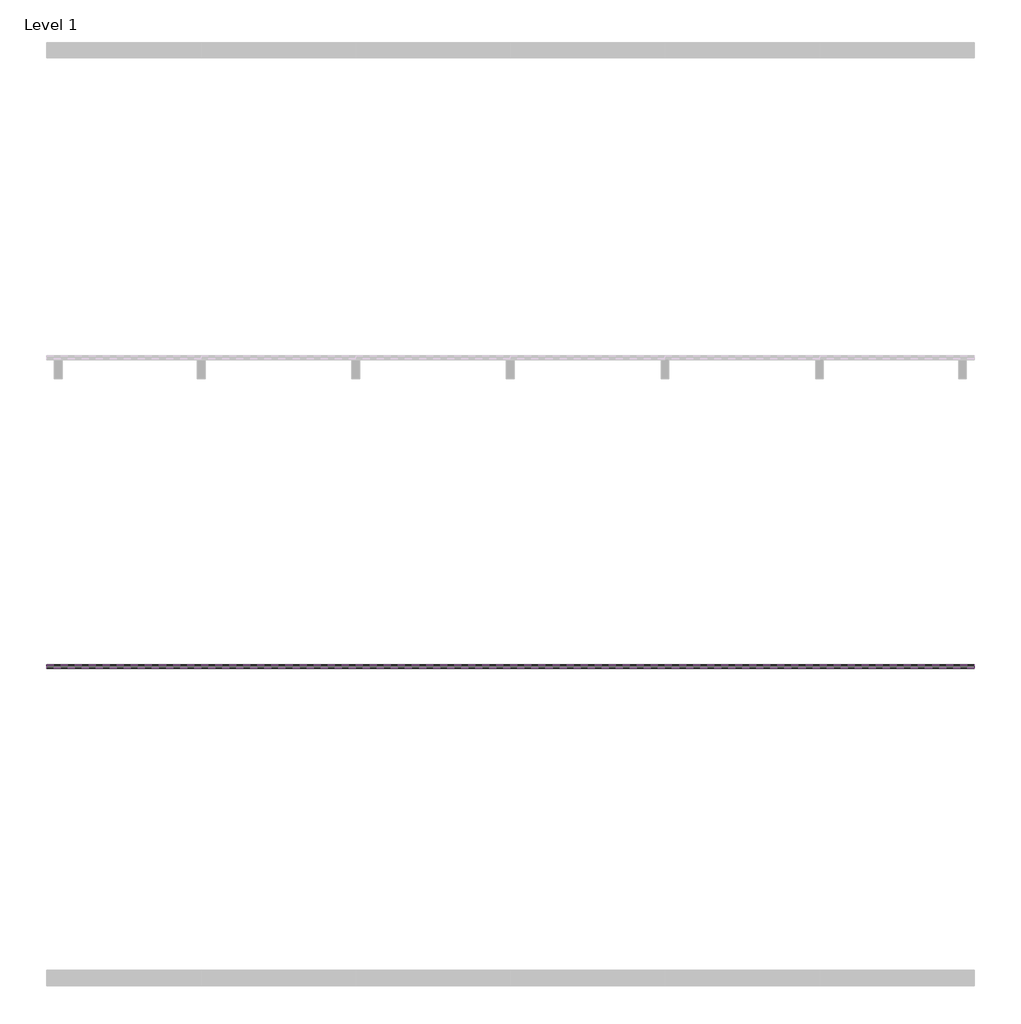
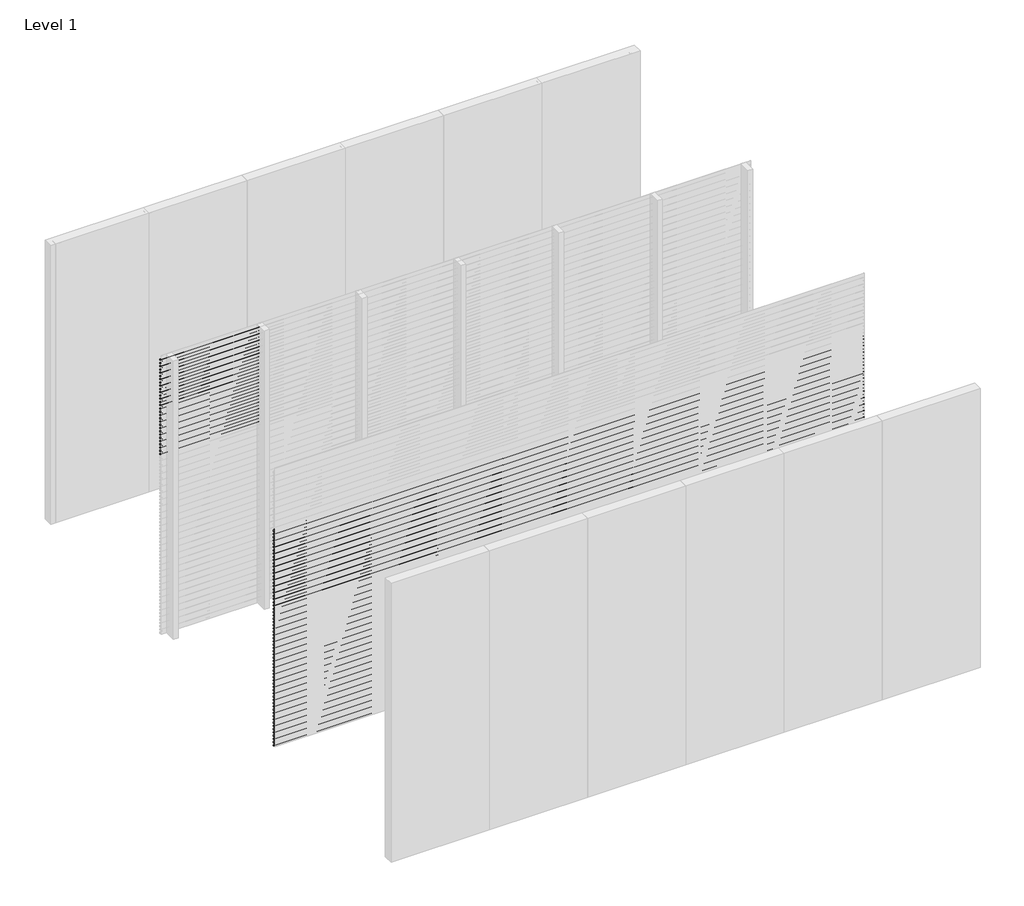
# One storey, part 2 of 25: 97 proxies.
"""IFC4 building model written with IfcOpenShell, lengths in millimetres."""

from ifc_helpers import new_model, si_unit, frame, origin, place, context, project, spatial, polyline, outline, extrude, element, save

model = new_model("IFC4")

# Units and contexts
model_context = context("Model", 3, world=origin())
ifc_project = project(units=[si_unit("LENGTHUNIT", "METRE", prefix="MILLI")], contexts=[model_context])

# Site, building, storey
site = spatial("IfcSite", under=ifc_project)
building = spatial("IfcBuilding", under=site)
storey = spatial("IfcBuildingStorey", under=building, Name="Level 1", Elevation=0.0)

# Proxies
placement = place(None, origin())
element("IfcBuildingElementProxy", 1, Name="Wall Sweeps", at=placement, inside=storey, context=model_context, shape_type="SweptSolid", body=[
    extrude(outline(polyline([(-17995.0, 2975.0), (-17995.0, 2963.942893), (-17976.0, 2948.0), (-17976.0, 2935.0), (-17997.0, 2952.6210923), (-17997.0, 2975.0), (-17995.0, 2975.0)])), frame((0.0, 0.0, 0.0), z_axis=(1.0, 0.0, 0.0), x_axis=(0.0, 1.0, 0.0)), (0.0, 0.0, 1.0), 1000.0000002),
])
element("IfcBuildingElementProxy", 2, Name="Wall Sweeps", at=placement, inside=storey, context=model_context, shape_type="SweptSolid", body=[
    extrude(outline(polyline([(-17995.0, 2940.0), (-17995.0, 2928.942893), (-17976.0, 2913.0), (-17976.0, 2900.0), (-17997.0, 2917.6210923), (-17997.0, 2940.0), (-17995.0, 2940.0)])), frame((0.0, 0.0, 0.0), z_axis=(1.0, 0.0, 0.0), x_axis=(0.0, 1.0, 0.0)), (0.0, 0.0, 1.0), 1000.0000002),
])
element("IfcBuildingElementProxy", 3, Name="Wall Sweeps", at=placement, inside=storey, context=model_context, shape_type="SweptSolid", body=[
    extrude(outline(polyline([(-17995.0, 2905.0), (-17995.0, 2893.942893), (-17976.0, 2878.0), (-17976.0, 2865.0), (-17997.0, 2882.6210923), (-17997.0, 2905.0), (-17995.0, 2905.0)])), frame((0.0, 0.0, 0.0), z_axis=(1.0, 0.0, 0.0), x_axis=(0.0, 1.0, 0.0)), (0.0, 0.0, 1.0), 1000.0000002),
])
element("IfcBuildingElementProxy", 4, Name="Wall Sweeps", at=placement, inside=storey, context=model_context, shape_type="SweptSolid", body=[
    extrude(outline(polyline([(-17995.0, 2870.0), (-17995.0, 2858.942893), (-17976.0, 2843.0), (-17976.0, 2830.0), (-17997.0, 2847.6210923), (-17997.0, 2870.0), (-17995.0, 2870.0)])), frame((0.0, 0.0, 0.0), z_axis=(1.0, 0.0, 0.0), x_axis=(0.0, 1.0, 0.0)), (0.0, 0.0, 1.0), 1000.0000002),
])
element("IfcBuildingElementProxy", 5, Name="Wall Sweeps", at=placement, inside=storey, context=model_context, shape_type="SweptSolid", body=[
    extrude(outline(polyline([(-17995.0, 2835.0), (-17995.0, 2823.942893), (-17976.0, 2808.0), (-17976.0, 2795.0), (-17997.0, 2812.6210923), (-17997.0, 2835.0), (-17995.0, 2835.0)])), frame((0.0, 0.0, 0.0), z_axis=(1.0, 0.0, 0.0), x_axis=(0.0, 1.0, 0.0)), (0.0, 0.0, 1.0), 1000.0000002),
])
element("IfcBuildingElementProxy", 6, Name="Wall Sweeps", at=placement, inside=storey, context=model_context, shape_type="SweptSolid", body=[
    extrude(outline(polyline([(-17995.0, 2800.0), (-17995.0, 2788.942893), (-17976.0, 2773.0), (-17976.0, 2760.0), (-17997.0, 2777.6210923), (-17997.0, 2800.0), (-17995.0, 2800.0)])), frame((0.0, 0.0, 0.0), z_axis=(1.0, 0.0, 0.0), x_axis=(0.0, 1.0, 0.0)), (0.0, 0.0, 1.0), 1000.0000002),
])
element("IfcBuildingElementProxy", 7, Name="Wall Sweeps", at=placement, inside=storey, context=model_context, shape_type="SweptSolid", body=[
    extrude(outline(polyline([(-17995.0, 2765.0), (-17995.0, 2753.942893), (-17976.0, 2738.0), (-17976.0, 2725.0), (-17997.0, 2742.6210923), (-17997.0, 2765.0), (-17995.0, 2765.0)])), frame((0.0, 0.0, 0.0), z_axis=(1.0, 0.0, 0.0), x_axis=(0.0, 1.0, 0.0)), (0.0, 0.0, 1.0), 1000.0000002),
])
element("IfcBuildingElementProxy", 8, Name="Wall Sweeps", at=placement, inside=storey, context=model_context, shape_type="SweptSolid", body=[
    extrude(outline(polyline([(-17995.0, 2730.0), (-17995.0, 2718.942893), (-17976.0, 2703.0), (-17976.0, 2690.0), (-17997.0, 2707.6210923), (-17997.0, 2730.0), (-17995.0, 2730.0)])), frame((0.0, 0.0, 0.0), z_axis=(1.0, 0.0, 0.0), x_axis=(0.0, 1.0, 0.0)), (0.0, 0.0, 1.0), 1000.0000002),
])
element("IfcBuildingElementProxy", 9, Name="Wall Sweeps", at=placement, inside=storey, context=model_context, shape_type="SweptSolid", body=[
    extrude(outline(polyline([(-17995.0, 2695.0), (-17995.0, 2683.942893), (-17976.0, 2668.0), (-17976.0, 2655.0), (-17997.0, 2672.6210923), (-17997.0, 2695.0), (-17995.0, 2695.0)])), frame((0.0, 0.0, 0.0), z_axis=(1.0, 0.0, 0.0), x_axis=(0.0, 1.0, 0.0)), (0.0, 0.0, 1.0), 1000.0000002),
])
element("IfcBuildingElementProxy", 10, Name="Wall Sweeps", at=placement, inside=storey, context=model_context, shape_type="SweptSolid", body=[
    extrude(outline(polyline([(-17995.0, 2660.0), (-17995.0, 2648.942893), (-17976.0, 2633.0), (-17976.0, 2620.0), (-17997.0, 2637.6210923), (-17997.0, 2660.0), (-17995.0, 2660.0)])), frame((0.0, 0.0, 0.0), z_axis=(1.0, 0.0, 0.0), x_axis=(0.0, 1.0, 0.0)), (0.0, 0.0, 1.0), 1000.0000002),
])
element("IfcBuildingElementProxy", 11, Name="Wall Sweeps", at=placement, inside=storey, context=model_context, shape_type="SweptSolid", body=[
    extrude(outline(polyline([(-17995.0, 2625.0), (-17995.0, 2613.942893), (-17976.0, 2598.0), (-17976.0, 2585.0), (-17997.0, 2602.6210923), (-17997.0, 2625.0), (-17995.0, 2625.0)])), frame((0.0, 0.0, 0.0), z_axis=(1.0, 0.0, 0.0), x_axis=(0.0, 1.0, 0.0)), (0.0, 0.0, 1.0), 1000.0000002),
])
element("IfcBuildingElementProxy", 12, Name="Wall Sweeps", at=placement, inside=storey, context=model_context, shape_type="SweptSolid", body=[
    extrude(outline(polyline([(-17995.0, 2590.0), (-17995.0, 2578.942893), (-17976.0, 2563.0), (-17976.0, 2550.0), (-17997.0, 2567.6210923), (-17997.0, 2590.0), (-17995.0, 2590.0)])), frame((0.0, 0.0, 0.0), z_axis=(1.0, 0.0, 0.0), x_axis=(0.0, 1.0, 0.0)), (0.0, 0.0, 1.0), 1000.0000002),
])
element("IfcBuildingElementProxy", 13, Name="Wall Sweeps", at=placement, inside=storey, context=model_context, shape_type="SweptSolid", body=[
    extrude(outline(polyline([(-17995.0, 2555.0), (-17995.0, 2543.942893), (-17976.0, 2528.0), (-17976.0, 2515.0), (-17997.0, 2532.6210923), (-17997.0, 2555.0), (-17995.0, 2555.0)])), frame((0.0, 0.0, 0.0), z_axis=(1.0, 0.0, 0.0), x_axis=(0.0, 1.0, 0.0)), (0.0, 0.0, 1.0), 1000.0000002),
])
element("IfcBuildingElementProxy", 14, Name="Wall Sweeps", at=placement, inside=storey, context=model_context, shape_type="SweptSolid", body=[
    extrude(outline(polyline([(-17995.0, 2520.0), (-17995.0, 2508.942893), (-17976.0, 2493.0), (-17976.0, 2480.0), (-17997.0, 2497.6210923), (-17997.0, 2520.0), (-17995.0, 2520.0)])), frame((0.0, 0.0, 0.0), z_axis=(1.0, 0.0, 0.0), x_axis=(0.0, 1.0, 0.0)), (0.0, 0.0, 1.0), 1000.0000002),
])
element("IfcBuildingElementProxy", 15, Name="Wall Sweeps", at=placement, inside=storey, context=model_context, shape_type="SweptSolid", body=[
    extrude(outline(polyline([(-17995.0, 2485.0), (-17995.0, 2473.942893), (-17976.0, 2458.0), (-17976.0, 2445.0), (-17997.0, 2462.6210923), (-17997.0, 2485.0), (-17995.0, 2485.0)])), frame((0.0, 0.0, 0.0), z_axis=(1.0, 0.0, 0.0), x_axis=(0.0, 1.0, 0.0)), (0.0, 0.0, 1.0), 1000.0000002),
])
element("IfcBuildingElementProxy", 16, Name="Wall Sweeps", at=placement, inside=storey, context=model_context, shape_type="SweptSolid", body=[
    extrude(outline(polyline([(-17995.0, 2450.0), (-17995.0, 2438.942893), (-17976.0, 2423.0), (-17976.0, 2410.0), (-17997.0, 2427.6210923), (-17997.0, 2450.0), (-17995.0, 2450.0)])), frame((0.0, 0.0, 0.0), z_axis=(1.0, 0.0, 0.0), x_axis=(0.0, 1.0, 0.0)), (0.0, 0.0, 1.0), 1000.0000002),
])
element("IfcBuildingElementProxy", 17, Name="Wall Sweeps", at=placement, inside=storey, context=model_context, shape_type="SweptSolid", body=[
    extrude(outline(polyline([(-17995.0, 2415.0), (-17995.0, 2403.942893), (-17976.0, 2388.0), (-17976.0, 2375.0), (-17997.0, 2392.6210923), (-17997.0, 2415.0), (-17995.0, 2415.0)])), frame((0.0, 0.0, 0.0), z_axis=(1.0, 0.0, 0.0), x_axis=(0.0, 1.0, 0.0)), (0.0, 0.0, 1.0), 1000.0000002),
])
element("IfcBuildingElementProxy", 18, Name="Wall Sweeps", at=placement, inside=storey, context=model_context, shape_type="SweptSolid", body=[
    extrude(outline(polyline([(-17995.0, 2380.0), (-17995.0, 2368.942893), (-17976.0, 2353.0), (-17976.0, 2340.0), (-17997.0, 2357.6210923), (-17997.0, 2380.0), (-17995.0, 2380.0)])), frame((0.0, 0.0, 0.0), z_axis=(1.0, 0.0, 0.0), x_axis=(0.0, 1.0, 0.0)), (0.0, 0.0, 1.0), 1000.0000002),
])
element("IfcBuildingElementProxy", 19, Name="Wall Sweeps", at=placement, inside=storey, context=model_context, shape_type="SweptSolid", body=[
    extrude(outline(polyline([(-17995.0, 2345.0), (-17995.0, 2333.942893), (-17976.0, 2318.0), (-17976.0, 2305.0), (-17997.0, 2322.6210923), (-17997.0, 2345.0), (-17995.0, 2345.0)])), frame((0.0, 0.0, 0.0), z_axis=(1.0, 0.0, 0.0), x_axis=(0.0, 1.0, 0.0)), (0.0, 0.0, 1.0), 1000.0000002),
])
element("IfcBuildingElementProxy", 20, Name="Wall Sweeps", at=placement, inside=storey, context=model_context, shape_type="SweptSolid", body=[
    extrude(outline(polyline([(-17995.0, 2310.0), (-17995.0, 2298.942893), (-17976.0, 2283.0), (-17976.0, 2270.0), (-17997.0, 2287.6210923), (-17997.0, 2310.0), (-17995.0, 2310.0)])), frame((0.0, 0.0, 0.0), z_axis=(1.0, 0.0, 0.0), x_axis=(0.0, 1.0, 0.0)), (0.0, 0.0, 1.0), 1000.0000002),
])
element("IfcBuildingElementProxy", 21, Name="Wall Sweeps", at=placement, inside=storey, context=model_context, shape_type="SweptSolid", body=[
    extrude(outline(polyline([(-17995.0, 2275.0), (-17995.0, 2263.942893), (-17976.0, 2248.0), (-17976.0, 2235.0), (-17997.0, 2252.6210923), (-17997.0, 2275.0), (-17995.0, 2275.0)])), frame((0.0, 0.0, 0.0), z_axis=(1.0, 0.0, 0.0), x_axis=(0.0, 1.0, 0.0)), (0.0, 0.0, 1.0), 1000.0000002),
])
element("IfcBuildingElementProxy", 22, Name="Wall Sweeps", at=placement, inside=storey, context=model_context, shape_type="SweptSolid", body=[
    extrude(outline(polyline([(-17995.0, 2240.0), (-17995.0, 2228.942893), (-17976.0, 2213.0), (-17976.0, 2200.0), (-17997.0, 2217.6210923), (-17997.0, 2240.0), (-17995.0, 2240.0)])), frame((0.0, 0.0, 0.0), z_axis=(1.0, 0.0, 0.0), x_axis=(0.0, 1.0, 0.0)), (0.0, 0.0, 1.0), 1000.0000002),
])
element("IfcBuildingElementProxy", 23, Name="Wall Sweeps", at=placement, inside=storey, context=model_context, shape_type="SweptSolid", body=[
    extrude(outline(polyline([(-17995.0, 2205.0), (-17995.0, 2193.942893), (-17976.0, 2178.0), (-17976.0, 2165.0), (-17997.0, 2182.6210923), (-17997.0, 2205.0), (-17995.0, 2205.0)])), frame((0.0, 0.0, 0.0), z_axis=(1.0, 0.0, 0.0), x_axis=(0.0, 1.0, 0.0)), (0.0, 0.0, 1.0), 1000.0000002),
])
element("IfcBuildingElementProxy", 24, Name="Wall Sweeps", at=placement, inside=storey, context=model_context, shape_type="SweptSolid", body=[
    extrude(outline(polyline([(-17995.0, 2170.0), (-17995.0, 2158.942893), (-17976.0, 2143.0), (-17976.0, 2130.0), (-17997.0, 2147.6210923), (-17997.0, 2170.0), (-17995.0, 2170.0)])), frame((0.0, 0.0, 0.0), z_axis=(1.0, 0.0, 0.0), x_axis=(0.0, 1.0, 0.0)), (0.0, 0.0, 1.0), 1000.0000002),
])
element("IfcBuildingElementProxy", 25, Name="Wall Sweeps", at=placement, inside=storey, context=model_context, shape_type="SweptSolid", body=[
    extrude(outline(polyline([(-17995.0, 2135.0), (-17995.0, 2123.942893), (-17976.0, 2108.0), (-17976.0, 2095.0), (-17997.0, 2112.6210923), (-17997.0, 2135.0), (-17995.0, 2135.0)])), frame((0.0, 0.0, 0.0), z_axis=(1.0, 0.0, 0.0), x_axis=(0.0, 1.0, 0.0)), (0.0, 0.0, 1.0), 1000.0000002),
])
element("IfcBuildingElementProxy", 26, Name="Wall Sweeps", at=placement, inside=storey, context=model_context, shape_type="SweptSolid", body=[
    extrude(outline(polyline([(-17995.0, 2100.0), (-17995.0, 2088.942893), (-17976.0, 2073.0), (-17976.0, 2060.0), (-17997.0, 2077.6210923), (-17997.0, 2100.0), (-17995.0, 2100.0)])), frame((0.0, 0.0, 0.0), z_axis=(1.0, 0.0, 0.0), x_axis=(0.0, 1.0, 0.0)), (0.0, 0.0, 1.0), 1000.0000002),
])
element("IfcBuildingElementProxy", 27, Name="Wall Sweeps", at=placement, inside=storey, context=model_context, shape_type="SweptSolid", body=[
    extrude(outline(polyline([(-17995.0, 2065.0), (-17995.0, 2053.942893), (-17976.0, 2038.0), (-17976.0, 2025.0), (-17997.0, 2042.6210923), (-17997.0, 2065.0), (-17995.0, 2065.0)])), frame((0.0, 0.0, 0.0), z_axis=(1.0, 0.0, 0.0), x_axis=(0.0, 1.0, 0.0)), (0.0, 0.0, 1.0), 1000.0000002),
])
element("IfcBuildingElementProxy", 28, Name="Wall Sweeps", at=placement, inside=storey, context=model_context, shape_type="SweptSolid", body=[
    extrude(outline(polyline([(-17995.0, 2030.0), (-17995.0, 2018.942893), (-17976.0, 2003.0), (-17976.0, 1990.0), (-17997.0, 2007.6210923), (-17997.0, 2030.0), (-17995.0, 2030.0)])), frame((0.0, 0.0, 0.0), z_axis=(1.0, 0.0, 0.0), x_axis=(0.0, 1.0, 0.0)), (0.0, 0.0, 1.0), 1000.0000002),
])
element("IfcBuildingElementProxy", 29, Name="Wall Sweeps", at=placement, inside=storey, context=model_context, shape_type="SweptSolid", body=[
    extrude(outline(polyline([(-17995.0, 1995.0), (-17995.0, 1983.942893), (-17976.0, 1968.0), (-17976.0, 1955.0), (-17997.0, 1972.6210923), (-17997.0, 1995.0), (-17995.0, 1995.0)])), frame((0.0, 0.0, 0.0), z_axis=(1.0, 0.0, 0.0), x_axis=(0.0, 1.0, 0.0)), (0.0, 0.0, 1.0), 1000.0000002),
])
element("IfcBuildingElementProxy", 30, Name="Wall Sweeps", at=placement, inside=storey, context=model_context, shape_type="SweptSolid", body=[
    extrude(outline(polyline([(-17995.0, 1960.0), (-17995.0, 1948.942893), (-17976.0, 1933.0), (-17976.0, 1920.0), (-17997.0, 1937.6210923), (-17997.0, 1960.0), (-17995.0, 1960.0)])), frame((0.0, 0.0, 0.0), z_axis=(1.0, 0.0, 0.0), x_axis=(0.0, 1.0, 0.0)), (0.0, 0.0, 1.0), 1000.0000002),
])
element("IfcBuildingElementProxy", 31, Name="Wall Sweeps", at=placement, inside=storey, context=model_context, shape_type="SweptSolid", body=[
    extrude(outline(polyline([(-19995.0, 2345.0), (-19995.0, 2333.942893), (-19976.0, 2318.0), (-19976.0, 2305.0), (-19997.0, 2322.6210923), (-19997.0, 2345.0), (-19995.0, 2345.0)])), frame((0.0, 0.0, 0.0), z_axis=(1.0, 0.0, 0.0), x_axis=(0.0, 1.0, 0.0)), (0.0, 0.0, 1.0), 6000.0),
])
element("IfcBuildingElementProxy", 32, Name="Wall Sweeps", at=placement, inside=storey, context=model_context, shape_type="SweptSolid", body=[
    extrude(outline(polyline([(-19995.0, 2310.0), (-19995.0, 2298.942893), (-19976.0, 2283.0), (-19976.0, 2270.0), (-19997.0, 2287.6210923), (-19997.0, 2310.0), (-19995.0, 2310.0)])), frame((0.0, 0.0, 0.0), z_axis=(1.0, 0.0, 0.0), x_axis=(0.0, 1.0, 0.0)), (0.0, 0.0, 1.0), 6000.0),
])
element("IfcBuildingElementProxy", 33, Name="Wall Sweeps", at=placement, inside=storey, context=model_context, shape_type="SweptSolid", body=[
    extrude(outline(polyline([(-19995.0, 2275.0), (-19995.0, 2263.942893), (-19976.0, 2248.0), (-19976.0, 2235.0), (-19997.0, 2252.6210923), (-19997.0, 2275.0), (-19995.0, 2275.0)])), frame((0.0, 0.0, 0.0), z_axis=(1.0, 0.0, 0.0), x_axis=(0.0, 1.0, 0.0)), (0.0, 0.0, 1.0), 6000.0),
])
element("IfcBuildingElementProxy", 34, Name="Wall Sweeps", at=placement, inside=storey, context=model_context, shape_type="SweptSolid", body=[
    extrude(outline(polyline([(-19995.0, 2240.0), (-19995.0, 2228.942893), (-19976.0, 2213.0), (-19976.0, 2200.0), (-19997.0, 2217.6210923), (-19997.0, 2240.0), (-19995.0, 2240.0)])), frame((0.0, 0.0, 0.0), z_axis=(1.0, 0.0, 0.0), x_axis=(0.0, 1.0, 0.0)), (0.0, 0.0, 1.0), 6000.0),
])
element("IfcBuildingElementProxy", 35, Name="Wall Sweeps", at=placement, inside=storey, context=model_context, shape_type="SweptSolid", body=[
    extrude(outline(polyline([(-19995.0, 2205.0), (-19995.0, 2193.942893), (-19976.0, 2178.0), (-19976.0, 2165.0), (-19997.0, 2182.6210923), (-19997.0, 2205.0), (-19995.0, 2205.0)])), frame((0.0, 0.0, 0.0), z_axis=(1.0, 0.0, 0.0), x_axis=(0.0, 1.0, 0.0)), (0.0, 0.0, 1.0), 6000.0),
])
element("IfcBuildingElementProxy", 36, Name="Wall Sweeps", at=placement, inside=storey, context=model_context, shape_type="SweptSolid", body=[
    extrude(outline(polyline([(-19995.0, 2170.0), (-19995.0, 2158.942893), (-19976.0, 2143.0), (-19976.0, 2130.0), (-19997.0, 2147.6210923), (-19997.0, 2170.0), (-19995.0, 2170.0)])), frame((0.0, 0.0, 0.0), z_axis=(1.0, 0.0, 0.0), x_axis=(0.0, 1.0, 0.0)), (0.0, 0.0, 1.0), 6000.0),
])
element("IfcBuildingElementProxy", 37, Name="Wall Sweeps", at=placement, inside=storey, context=model_context, shape_type="SweptSolid", body=[
    extrude(outline(polyline([(-19995.0, 2135.0), (-19995.0, 2123.942893), (-19976.0, 2108.0), (-19976.0, 2095.0), (-19997.0, 2112.6210923), (-19997.0, 2135.0), (-19995.0, 2135.0)])), frame((0.0, 0.0, 0.0), z_axis=(1.0, 0.0, 0.0), x_axis=(0.0, 1.0, 0.0)), (0.0, 0.0, 1.0), 6000.0),
])
element("IfcBuildingElementProxy", 38, Name="Wall Sweeps", at=placement, inside=storey, context=model_context, shape_type="SweptSolid", body=[
    extrude(outline(polyline([(-19995.0, 2100.0), (-19995.0, 2088.942893), (-19976.0, 2073.0), (-19976.0, 2060.0), (-19997.0, 2077.6210923), (-19997.0, 2100.0), (-19995.0, 2100.0)])), frame((0.0, 0.0, 0.0), z_axis=(1.0, 0.0, 0.0), x_axis=(0.0, 1.0, 0.0)), (0.0, 0.0, 1.0), 6000.0),
])
element("IfcBuildingElementProxy", 39, Name="Wall Sweeps", at=placement, inside=storey, context=model_context, shape_type="SweptSolid", body=[
    extrude(outline(polyline([(-19995.0, 2065.0), (-19995.0, 2053.942893), (-19976.0, 2038.0), (-19976.0, 2025.0), (-19997.0, 2042.6210923), (-19997.0, 2065.0), (-19995.0, 2065.0)])), frame((0.0, 0.0, 0.0), z_axis=(1.0, 0.0, 0.0), x_axis=(0.0, 1.0, 0.0)), (0.0, 0.0, 1.0), 6000.0),
])
element("IfcBuildingElementProxy", 40, Name="Wall Sweeps", at=placement, inside=storey, context=model_context, shape_type="SweptSolid", body=[
    extrude(outline(polyline([(-19995.0, 2030.0), (-19995.0, 2018.942893), (-19976.0, 2003.0), (-19976.0, 1990.0), (-19997.0, 2007.6210923), (-19997.0, 2030.0), (-19995.0, 2030.0)])), frame((0.0, 0.0, 0.0), z_axis=(1.0, 0.0, 0.0), x_axis=(0.0, 1.0, 0.0)), (0.0, 0.0, 1.0), 6000.0),
])
element("IfcBuildingElementProxy", 41, Name="Wall Sweeps", at=placement, inside=storey, context=model_context, shape_type="SweptSolid", body=[
    extrude(outline(polyline([(-19995.0, 1995.0), (-19995.0, 1983.942893), (-19976.0, 1968.0), (-19976.0, 1955.0), (-19997.0, 1972.6210923), (-19997.0, 1995.0), (-19995.0, 1995.0)])), frame((0.0, 0.0, 0.0), z_axis=(1.0, 0.0, 0.0), x_axis=(0.0, 1.0, 0.0)), (0.0, 0.0, 1.0), 6000.0),
])
element("IfcBuildingElementProxy", 42, Name="Wall Sweeps", at=placement, inside=storey, context=model_context, shape_type="SweptSolid", body=[
    extrude(outline(polyline([(-19995.0, 1960.0), (-19995.0, 1948.942893), (-19976.0, 1933.0), (-19976.0, 1920.0), (-19997.0, 1937.6210923), (-19997.0, 1960.0), (-19995.0, 1960.0)])), frame((0.0, 0.0, 0.0), z_axis=(1.0, 0.0, 0.0), x_axis=(0.0, 1.0, 0.0)), (0.0, 0.0, 1.0), 6000.0),
])
element("IfcBuildingElementProxy", 43, Name="Wall Sweeps", at=placement, inside=storey, context=model_context, shape_type="SweptSolid", body=[
    extrude(outline(polyline([(-19995.0, 1925.0), (-19995.0, 1913.942893), (-19976.0, 1898.0), (-19976.0, 1885.0), (-19997.0, 1902.6210923), (-19997.0, 1925.0), (-19995.0, 1925.0)])), frame((0.0, 0.0, 0.0), z_axis=(1.0, 0.0, 0.0), x_axis=(0.0, 1.0, 0.0)), (0.0, 0.0, 1.0), 6000.0),
])
element("IfcBuildingElementProxy", 44, Name="Wall Sweeps", at=placement, inside=storey, context=model_context, shape_type="SweptSolid", body=[
    extrude(outline(polyline([(-19995.0, 1890.0), (-19995.0, 1878.942893), (-19976.0, 1863.0), (-19976.0, 1850.0), (-19997.0, 1867.6210923), (-19997.0, 1890.0), (-19995.0, 1890.0)])), frame((0.0, 0.0, 0.0), z_axis=(1.0, 0.0, 0.0), x_axis=(0.0, 1.0, 0.0)), (0.0, 0.0, 1.0), 6000.0),
])
element("IfcBuildingElementProxy", 45, Name="Wall Sweeps", at=placement, inside=storey, context=model_context, shape_type="SweptSolid", body=[
    extrude(outline(polyline([(-19995.0, 1855.0), (-19995.0, 1843.942893), (-19976.0, 1828.0), (-19976.0, 1815.0), (-19997.0, 1832.6210923), (-19997.0, 1855.0), (-19995.0, 1855.0)])), frame((0.0, 0.0, 0.0), z_axis=(1.0, 0.0, 0.0), x_axis=(0.0, 1.0, 0.0)), (0.0, 0.0, 1.0), 6000.0),
])
element("IfcBuildingElementProxy", 46, Name="Wall Sweeps", at=placement, inside=storey, context=model_context, shape_type="SweptSolid", body=[
    extrude(outline(polyline([(-19995.0, 1820.0), (-19995.0, 1808.942893), (-19976.0, 1793.0), (-19976.0, 1780.0), (-19997.0, 1797.6210923), (-19997.0, 1820.0), (-19995.0, 1820.0)])), frame((0.0, 0.0, 0.0), z_axis=(1.0, 0.0, 0.0), x_axis=(0.0, 1.0, 0.0)), (0.0, 0.0, 1.0), 6000.0),
])
element("IfcBuildingElementProxy", 47, Name="Wall Sweeps", at=placement, inside=storey, context=model_context, shape_type="SweptSolid", body=[
    extrude(outline(polyline([(-19995.0, 1785.0), (-19995.0, 1773.942893), (-19976.0, 1758.0), (-19976.0, 1745.0), (-19997.0, 1762.6210923), (-19997.0, 1785.0), (-19995.0, 1785.0)])), frame((0.0, 0.0, 0.0), z_axis=(1.0, 0.0, 0.0), x_axis=(0.0, 1.0, 0.0)), (0.0, 0.0, 1.0), 6000.0),
])
element("IfcBuildingElementProxy", 48, Name="Wall Sweeps", at=placement, inside=storey, context=model_context, shape_type="SweptSolid", body=[
    extrude(outline(polyline([(-19995.0, 1750.0), (-19995.0, 1738.942893), (-19976.0, 1723.0), (-19976.0, 1710.0), (-19997.0, 1727.6210923), (-19997.0, 1750.0), (-19995.0, 1750.0)])), frame((0.0, 0.0, 0.0), z_axis=(1.0, 0.0, 0.0), x_axis=(0.0, 1.0, 0.0)), (0.0, 0.0, 1.0), 6000.0),
])
element("IfcBuildingElementProxy", 49, Name="Wall Sweeps", at=placement, inside=storey, context=model_context, shape_type="SweptSolid", body=[
    extrude(outline(polyline([(-19995.0, 1715.0), (-19995.0, 1703.942893), (-19976.0, 1688.0), (-19976.0, 1675.0), (-19997.0, 1692.6210923), (-19997.0, 1715.0), (-19995.0, 1715.0)])), frame((0.0, 0.0, 0.0), z_axis=(1.0, 0.0, 0.0), x_axis=(0.0, 1.0, 0.0)), (0.0, 0.0, 1.0), 6000.0),
])
element("IfcBuildingElementProxy", 50, Name="Wall Sweeps", at=placement, inside=storey, context=model_context, shape_type="SweptSolid", body=[
    extrude(outline(polyline([(-19995.0, 1680.0), (-19995.0, 1668.942893), (-19976.0, 1653.0), (-19976.0, 1640.0), (-19997.0, 1657.6210923), (-19997.0, 1680.0), (-19995.0, 1680.0)])), frame((0.0, 0.0, 0.0), z_axis=(1.0, 0.0, 0.0), x_axis=(0.0, 1.0, 0.0)), (0.0, 0.0, 1.0), 6000.0),
])
element("IfcBuildingElementProxy", 51, Name="Wall Sweeps", at=placement, inside=storey, context=model_context, shape_type="SweptSolid", body=[
    extrude(outline(polyline([(-19995.0, 1645.0), (-19995.0, 1633.942893), (-19976.0, 1618.0), (-19976.0, 1605.0), (-19997.0, 1622.6210923), (-19997.0, 1645.0), (-19995.0, 1645.0)])), frame((0.0, 0.0, 0.0), z_axis=(1.0, 0.0, 0.0), x_axis=(0.0, 1.0, 0.0)), (0.0, 0.0, 1.0), 6000.0),
])
element("IfcBuildingElementProxy", 52, Name="Wall Sweeps", at=placement, inside=storey, context=model_context, shape_type="SweptSolid", body=[
    extrude(outline(polyline([(-19995.0, 1610.0), (-19995.0, 1598.942893), (-19976.0, 1583.0), (-19976.0, 1570.0), (-19997.0, 1587.6210923), (-19997.0, 1610.0), (-19995.0, 1610.0)])), frame((0.0, 0.0, 0.0), z_axis=(1.0, 0.0, 0.0), x_axis=(0.0, 1.0, 0.0)), (0.0, 0.0, 1.0), 6000.0),
])
element("IfcBuildingElementProxy", 53, Name="Wall Sweeps", at=placement, inside=storey, context=model_context, shape_type="SweptSolid", body=[
    extrude(outline(polyline([(-19995.0, 1575.0), (-19995.0, 1563.942893), (-19976.0, 1548.0), (-19976.0, 1535.0), (-19997.0, 1552.6210923), (-19997.0, 1575.0), (-19995.0, 1575.0)])), frame((0.0, 0.0, 0.0), z_axis=(1.0, 0.0, 0.0), x_axis=(0.0, 1.0, 0.0)), (0.0, 0.0, 1.0), 6000.0),
])
element("IfcBuildingElementProxy", 54, Name="Wall Sweeps", at=placement, inside=storey, context=model_context, shape_type="SweptSolid", body=[
    extrude(outline(polyline([(-19995.0, 1540.0), (-19995.0, 1528.942893), (-19976.0, 1513.0), (-19976.0, 1500.0), (-19997.0, 1517.6210923), (-19997.0, 1540.0), (-19995.0, 1540.0)])), frame((0.0, 0.0, 0.0), z_axis=(1.0, 0.0, 0.0), x_axis=(0.0, 1.0, 0.0)), (0.0, 0.0, 1.0), 6000.0),
])
element("IfcBuildingElementProxy", 55, Name="Wall Sweeps", at=placement, inside=storey, context=model_context, shape_type="SweptSolid", body=[
    extrude(outline(polyline([(-19995.0, 1505.0), (-19995.0, 1493.942893), (-19976.0, 1478.0), (-19976.0, 1465.0), (-19997.0, 1482.6210923), (-19997.0, 1505.0), (-19995.0, 1505.0)])), frame((0.0, 0.0, 0.0), z_axis=(1.0, 0.0, 0.0), x_axis=(0.0, 1.0, 0.0)), (0.0, 0.0, 1.0), 6000.0),
])
element("IfcBuildingElementProxy", 56, Name="Wall Sweeps", at=placement, inside=storey, context=model_context, shape_type="SweptSolid", body=[
    extrude(outline(polyline([(-19995.0, 1470.0), (-19995.0, 1458.942893), (-19976.0, 1443.0), (-19976.0, 1430.0), (-19997.0, 1447.6210923), (-19997.0, 1470.0), (-19995.0, 1470.0)])), frame((0.0, 0.0, 0.0), z_axis=(1.0, 0.0, 0.0), x_axis=(0.0, 1.0, 0.0)), (0.0, 0.0, 1.0), 6000.0),
])
element("IfcBuildingElementProxy", 57, Name="Wall Sweeps", at=placement, inside=storey, context=model_context, shape_type="SweptSolid", body=[
    extrude(outline(polyline([(-19995.0, 1435.0), (-19995.0, 1423.942893), (-19976.0, 1408.0), (-19976.0, 1395.0), (-19997.0, 1412.6210923), (-19997.0, 1435.0), (-19995.0, 1435.0)])), frame((0.0, 0.0, 0.0), z_axis=(1.0, 0.0, 0.0), x_axis=(0.0, 1.0, 0.0)), (0.0, 0.0, 1.0), 6000.0),
])
element("IfcBuildingElementProxy", 58, Name="Wall Sweeps", at=placement, inside=storey, context=model_context, shape_type="SweptSolid", body=[
    extrude(outline(polyline([(-19995.0, 1400.0), (-19995.0, 1388.942893), (-19976.0, 1373.0), (-19976.0, 1360.0), (-19997.0, 1377.6210923), (-19997.0, 1400.0), (-19995.0, 1400.0)])), frame((0.0, 0.0, 0.0), z_axis=(1.0, 0.0, 0.0), x_axis=(0.0, 1.0, 0.0)), (0.0, 0.0, 1.0), 6000.0),
])
element("IfcBuildingElementProxy", 59, Name="Wall Sweeps", at=placement, inside=storey, context=model_context, shape_type="SweptSolid", body=[
    extrude(outline(polyline([(-19995.0, 1365.0), (-19995.0, 1353.942893), (-19976.0, 1338.0), (-19976.0, 1325.0), (-19997.0, 1342.6210923), (-19997.0, 1365.0), (-19995.0, 1365.0)])), frame((0.0, 0.0, 0.0), z_axis=(1.0, 0.0, 0.0), x_axis=(0.0, 1.0, 0.0)), (0.0, 0.0, 1.0), 6000.0),
])
element("IfcBuildingElementProxy", 60, Name="Wall Sweeps", at=placement, inside=storey, context=model_context, shape_type="SweptSolid", body=[
    extrude(outline(polyline([(-19995.0, 1330.0), (-19995.0, 1318.942893), (-19976.0, 1303.0), (-19976.0, 1290.0), (-19997.0, 1307.6210923), (-19997.0, 1330.0), (-19995.0, 1330.0)])), frame((0.0, 0.0, 0.0), z_axis=(1.0, 0.0, 0.0), x_axis=(0.0, 1.0, 0.0)), (0.0, 0.0, 1.0), 6000.0),
])
element("IfcBuildingElementProxy", 61, Name="Wall Sweeps", at=placement, inside=storey, context=model_context, shape_type="SweptSolid", body=[
    extrude(outline(polyline([(-19995.0, 1295.0), (-19995.0, 1283.942893), (-19976.0, 1268.0), (-19976.0, 1255.0), (-19997.0, 1272.6210923), (-19997.0, 1295.0), (-19995.0, 1295.0)])), frame((0.0, 0.0, 0.0), z_axis=(1.0, 0.0, 0.0), x_axis=(0.0, 1.0, 0.0)), (0.0, 0.0, 1.0), 6000.0),
])
element("IfcBuildingElementProxy", 62, Name="Wall Sweeps", at=placement, inside=storey, context=model_context, shape_type="SweptSolid", body=[
    extrude(outline(polyline([(-19995.0, 1260.0), (-19995.0, 1248.942893), (-19976.0, 1233.0), (-19976.0, 1220.0), (-19997.0, 1237.6210923), (-19997.0, 1260.0), (-19995.0, 1260.0)])), frame((0.0, 0.0, 0.0), z_axis=(1.0, 0.0, 0.0), x_axis=(0.0, 1.0, 0.0)), (0.0, 0.0, 1.0), 6000.0),
])
element("IfcBuildingElementProxy", 63, Name="Wall Sweeps", at=placement, inside=storey, context=model_context, shape_type="SweptSolid", body=[
    extrude(outline(polyline([(-19995.0, 1225.0), (-19995.0, 1213.942893), (-19976.0, 1198.0), (-19976.0, 1185.0), (-19997.0, 1202.6210923), (-19997.0, 1225.0), (-19995.0, 1225.0)])), frame((0.0, 0.0, 0.0), z_axis=(1.0, 0.0, 0.0), x_axis=(0.0, 1.0, 0.0)), (0.0, 0.0, 1.0), 6000.0),
])
element("IfcBuildingElementProxy", 64, Name="Wall Sweeps", at=placement, inside=storey, context=model_context, shape_type="SweptSolid", body=[
    extrude(outline(polyline([(-19995.0, 1190.0), (-19995.0, 1178.942893), (-19976.0, 1163.0), (-19976.0, 1150.0), (-19997.0, 1167.6210923), (-19997.0, 1190.0), (-19995.0, 1190.0)])), frame((0.0, 0.0, 0.0), z_axis=(1.0, 0.0, 0.0), x_axis=(0.0, 1.0, 0.0)), (0.0, 0.0, 1.0), 6000.0),
])
element("IfcBuildingElementProxy", 65, Name="Wall Sweeps", at=placement, inside=storey, context=model_context, shape_type="SweptSolid", body=[
    extrude(outline(polyline([(-19995.0, 1155.0), (-19995.0, 1143.942893), (-19976.0, 1128.0), (-19976.0, 1115.0), (-19997.0, 1132.6210923), (-19997.0, 1155.0), (-19995.0, 1155.0)])), frame((0.0, 0.0, 0.0), z_axis=(1.0, 0.0, 0.0), x_axis=(0.0, 1.0, 0.0)), (0.0, 0.0, 1.0), 6000.0),
])
element("IfcBuildingElementProxy", 66, Name="Wall Sweeps", at=placement, inside=storey, context=model_context, shape_type="SweptSolid", body=[
    extrude(outline(polyline([(-19995.0, 1120.0), (-19995.0, 1108.942893), (-19976.0, 1093.0), (-19976.0, 1080.0), (-19997.0, 1097.6210923), (-19997.0, 1120.0), (-19995.0, 1120.0)])), frame((0.0, 0.0, 0.0), z_axis=(1.0, 0.0, 0.0), x_axis=(0.0, 1.0, 0.0)), (0.0, 0.0, 1.0), 6000.0),
])
element("IfcBuildingElementProxy", 67, Name="Wall Sweeps", at=placement, inside=storey, context=model_context, shape_type="SweptSolid", body=[
    extrude(outline(polyline([(-19995.0, 1085.0), (-19995.0, 1073.942893), (-19976.0, 1058.0), (-19976.0, 1045.0), (-19997.0, 1062.6210923), (-19997.0, 1085.0), (-19995.0, 1085.0)])), frame((0.0, 0.0, 0.0), z_axis=(1.0, 0.0, 0.0), x_axis=(0.0, 1.0, 0.0)), (0.0, 0.0, 1.0), 6000.0),
])
element("IfcBuildingElementProxy", 68, Name="Wall Sweeps", at=placement, inside=storey, context=model_context, shape_type="SweptSolid", body=[
    extrude(outline(polyline([(-19995.0, 1050.0), (-19995.0, 1038.942893), (-19976.0, 1023.0), (-19976.0, 1010.0), (-19997.0, 1027.6210923), (-19997.0, 1050.0), (-19995.0, 1050.0)])), frame((0.0, 0.0, 0.0), z_axis=(1.0, 0.0, 0.0), x_axis=(0.0, 1.0, 0.0)), (0.0, 0.0, 1.0), 6000.0),
])
element("IfcBuildingElementProxy", 69, Name="Wall Sweeps", at=placement, inside=storey, context=model_context, shape_type="SweptSolid", body=[
    extrude(outline(polyline([(-19995.0, 1015.0), (-19995.0, 1003.942893), (-19976.0, 988.0), (-19976.0, 975.0), (-19997.0, 992.6210923), (-19997.0, 1015.0), (-19995.0, 1015.0)])), frame((0.0, 0.0, 0.0), z_axis=(1.0, 0.0, 0.0), x_axis=(0.0, 1.0, 0.0)), (0.0, 0.0, 1.0), 6000.0),
])
element("IfcBuildingElementProxy", 70, Name="Wall Sweeps", at=placement, inside=storey, context=model_context, shape_type="SweptSolid", body=[
    extrude(outline(polyline([(-19995.0, 980.0), (-19995.0, 968.942893), (-19976.0, 953.0), (-19976.0, 940.0), (-19997.0, 957.6210923), (-19997.0, 980.0), (-19995.0, 980.0)])), frame((0.0, 0.0, 0.0), z_axis=(1.0, 0.0, 0.0), x_axis=(0.0, 1.0, 0.0)), (0.0, 0.0, 1.0), 6000.0),
])
element("IfcBuildingElementProxy", 71, Name="Wall Sweeps", at=placement, inside=storey, context=model_context, shape_type="SweptSolid", body=[
    extrude(outline(polyline([(-19995.0, 945.0), (-19995.0, 933.942893), (-19976.0, 918.0), (-19976.0, 905.0), (-19997.0, 922.6210923), (-19997.0, 945.0), (-19995.0, 945.0)])), frame((0.0, 0.0, 0.0), z_axis=(1.0, 0.0, 0.0), x_axis=(0.0, 1.0, 0.0)), (0.0, 0.0, 1.0), 6000.0),
])
element("IfcBuildingElementProxy", 72, Name="Wall Sweeps", at=placement, inside=storey, context=model_context, shape_type="SweptSolid", body=[
    extrude(outline(polyline([(-19995.0, 910.0), (-19995.0, 898.942893), (-19976.0, 883.0), (-19976.0, 870.0), (-19997.0, 887.6210923), (-19997.0, 910.0), (-19995.0, 910.0)])), frame((0.0, 0.0, 0.0), z_axis=(1.0, 0.0, 0.0), x_axis=(0.0, 1.0, 0.0)), (0.0, 0.0, 1.0), 6000.0),
])
element("IfcBuildingElementProxy", 73, Name="Wall Sweeps", at=placement, inside=storey, context=model_context, shape_type="SweptSolid", body=[
    extrude(outline(polyline([(-19995.0, 875.0), (-19995.0, 863.942893), (-19976.0, 848.0), (-19976.0, 835.0), (-19997.0, 852.6210923), (-19997.0, 875.0), (-19995.0, 875.0)])), frame((0.0, 0.0, 0.0), z_axis=(1.0, 0.0, 0.0), x_axis=(0.0, 1.0, 0.0)), (0.0, 0.0, 1.0), 6000.0),
])
element("IfcBuildingElementProxy", 74, Name="Wall Sweeps", at=placement, inside=storey, context=model_context, shape_type="SweptSolid", body=[
    extrude(outline(polyline([(-19995.0, 840.0), (-19995.0, 828.942893), (-19976.0, 813.0), (-19976.0, 800.0), (-19997.0, 817.6210923), (-19997.0, 840.0), (-19995.0, 840.0)])), frame((0.0, 0.0, 0.0), z_axis=(1.0, 0.0, 0.0), x_axis=(0.0, 1.0, 0.0)), (0.0, 0.0, 1.0), 6000.0),
])
element("IfcBuildingElementProxy", 75, Name="Wall Sweeps", at=placement, inside=storey, context=model_context, shape_type="SweptSolid", body=[
    extrude(outline(polyline([(-19995.0, 805.0), (-19995.0, 793.942893), (-19976.0, 778.0), (-19976.0, 765.0), (-19997.0, 782.6210923), (-19997.0, 805.0), (-19995.0, 805.0)])), frame((0.0, 0.0, 0.0), z_axis=(1.0, 0.0, 0.0), x_axis=(0.0, 1.0, 0.0)), (0.0, 0.0, 1.0), 6000.0),
])
element("IfcBuildingElementProxy", 76, Name="Wall Sweeps", at=placement, inside=storey, context=model_context, shape_type="SweptSolid", body=[
    extrude(outline(polyline([(-19995.0, 770.0), (-19995.0, 758.942893), (-19976.0, 743.0), (-19976.0, 730.0), (-19997.0, 747.6210923), (-19997.0, 770.0), (-19995.0, 770.0)])), frame((0.0, 0.0, 0.0), z_axis=(1.0, 0.0, 0.0), x_axis=(0.0, 1.0, 0.0)), (0.0, 0.0, 1.0), 6000.0),
])
element("IfcBuildingElementProxy", 77, Name="Wall Sweeps", at=placement, inside=storey, context=model_context, shape_type="SweptSolid", body=[
    extrude(outline(polyline([(-19995.0, 735.0), (-19995.0, 723.942893), (-19976.0, 708.0), (-19976.0, 695.0), (-19997.0, 712.6210923), (-19997.0, 735.0), (-19995.0, 735.0)])), frame((0.0, 0.0, 0.0), z_axis=(1.0, 0.0, 0.0), x_axis=(0.0, 1.0, 0.0)), (0.0, 0.0, 1.0), 6000.0),
])
element("IfcBuildingElementProxy", 78, Name="Wall Sweeps", at=placement, inside=storey, context=model_context, shape_type="SweptSolid", body=[
    extrude(outline(polyline([(-19995.0, 700.0), (-19995.0, 688.942893), (-19976.0, 673.0), (-19976.0, 660.0), (-19997.0, 677.6210923), (-19997.0, 700.0), (-19995.0, 700.0)])), frame((0.0, 0.0, 0.0), z_axis=(1.0, 0.0, 0.0), x_axis=(0.0, 1.0, 0.0)), (0.0, 0.0, 1.0), 6000.0),
])
element("IfcBuildingElementProxy", 79, Name="Wall Sweeps", at=placement, inside=storey, context=model_context, shape_type="SweptSolid", body=[
    extrude(outline(polyline([(-19995.0, 665.0), (-19995.0, 653.942893), (-19976.0, 638.0), (-19976.0, 625.0), (-19997.0, 642.6210923), (-19997.0, 665.0), (-19995.0, 665.0)])), frame((0.0, 0.0, 0.0), z_axis=(1.0, 0.0, 0.0), x_axis=(0.0, 1.0, 0.0)), (0.0, 0.0, 1.0), 6000.0),
])
element("IfcBuildingElementProxy", 80, Name="Wall Sweeps", at=placement, inside=storey, context=model_context, shape_type="SweptSolid", body=[
    extrude(outline(polyline([(-19995.0, 630.0), (-19995.0, 618.942893), (-19976.0, 603.0), (-19976.0, 590.0), (-19997.0, 607.6210923), (-19997.0, 630.0), (-19995.0, 630.0)])), frame((0.0, 0.0, 0.0), z_axis=(1.0, 0.0, 0.0), x_axis=(0.0, 1.0, 0.0)), (0.0, 0.0, 1.0), 6000.0),
])
element("IfcBuildingElementProxy", 81, Name="Wall Sweeps", at=placement, inside=storey, context=model_context, shape_type="SweptSolid", body=[
    extrude(outline(polyline([(-19995.0, 595.0), (-19995.0, 583.942893), (-19976.0, 568.0), (-19976.0, 555.0), (-19997.0, 572.6210923), (-19997.0, 595.0), (-19995.0, 595.0)])), frame((0.0, 0.0, 0.0), z_axis=(1.0, 0.0, 0.0), x_axis=(0.0, 1.0, 0.0)), (0.0, 0.0, 1.0), 6000.0),
])
element("IfcBuildingElementProxy", 82, Name="Wall Sweeps", at=placement, inside=storey, context=model_context, shape_type="SweptSolid", body=[
    extrude(outline(polyline([(-19995.0, 560.0), (-19995.0, 548.942893), (-19976.0, 533.0), (-19976.0, 520.0), (-19997.0, 537.6210923), (-19997.0, 560.0), (-19995.0, 560.0)])), frame((0.0, 0.0, 0.0), z_axis=(1.0, 0.0, 0.0), x_axis=(0.0, 1.0, 0.0)), (0.0, 0.0, 1.0), 6000.0),
])
element("IfcBuildingElementProxy", 83, Name="Wall Sweeps", at=placement, inside=storey, context=model_context, shape_type="SweptSolid", body=[
    extrude(outline(polyline([(-19995.0, 525.0), (-19995.0, 513.942893), (-19976.0, 498.0), (-19976.0, 485.0), (-19997.0, 502.6210923), (-19997.0, 525.0), (-19995.0, 525.0)])), frame((0.0, 0.0, 0.0), z_axis=(1.0, 0.0, 0.0), x_axis=(0.0, 1.0, 0.0)), (0.0, 0.0, 1.0), 6000.0),
])
element("IfcBuildingElementProxy", 84, Name="Wall Sweeps", at=placement, inside=storey, context=model_context, shape_type="SweptSolid", body=[
    extrude(outline(polyline([(-19995.0, 490.0), (-19995.0, 478.942893), (-19976.0, 463.0), (-19976.0, 450.0), (-19997.0, 467.6210923), (-19997.0, 490.0), (-19995.0, 490.0)])), frame((0.0, 0.0, 0.0), z_axis=(1.0, 0.0, 0.0), x_axis=(0.0, 1.0, 0.0)), (0.0, 0.0, 1.0), 6000.0),
])
element("IfcBuildingElementProxy", 85, Name="Wall Sweeps", at=placement, inside=storey, context=model_context, shape_type="SweptSolid", body=[
    extrude(outline(polyline([(-19995.0, 455.0), (-19995.0, 443.942893), (-19976.0, 428.0), (-19976.0, 415.0), (-19997.0, 432.6210923), (-19997.0, 455.0), (-19995.0, 455.0)])), frame((0.0, 0.0, 0.0), z_axis=(1.0, 0.0, 0.0), x_axis=(0.0, 1.0, 0.0)), (0.0, 0.0, 1.0), 6000.0),
])
element("IfcBuildingElementProxy", 86, Name="Wall Sweeps", at=placement, inside=storey, context=model_context, shape_type="SweptSolid", body=[
    extrude(outline(polyline([(-19995.0, 420.0), (-19995.0, 408.942893), (-19976.0, 393.0), (-19976.0, 380.0), (-19997.0, 397.6210923), (-19997.0, 420.0), (-19995.0, 420.0)])), frame((0.0, 0.0, 0.0), z_axis=(1.0, 0.0, 0.0), x_axis=(0.0, 1.0, 0.0)), (0.0, 0.0, 1.0), 6000.0),
])
element("IfcBuildingElementProxy", 87, Name="Wall Sweeps", at=placement, inside=storey, context=model_context, shape_type="SweptSolid", body=[
    extrude(outline(polyline([(-19995.0, 385.0), (-19995.0, 373.942893), (-19976.0, 358.0), (-19976.0, 345.0), (-19997.0, 362.6210923), (-19997.0, 385.0), (-19995.0, 385.0)])), frame((0.0, 0.0, 0.0), z_axis=(1.0, 0.0, 0.0), x_axis=(0.0, 1.0, 0.0)), (0.0, 0.0, 1.0), 6000.0),
])
element("IfcBuildingElementProxy", 88, Name="Wall Sweeps", at=placement, inside=storey, context=model_context, shape_type="SweptSolid", body=[
    extrude(outline(polyline([(-19995.0, 350.0), (-19995.0, 338.942893), (-19976.0, 323.0), (-19976.0, 310.0), (-19997.0, 327.6210923), (-19997.0, 350.0), (-19995.0, 350.0)])), frame((0.0, 0.0, 0.0), z_axis=(1.0, 0.0, 0.0), x_axis=(0.0, 1.0, 0.0)), (0.0, 0.0, 1.0), 6000.0),
])
element("IfcBuildingElementProxy", 89, Name="Wall Sweeps", at=placement, inside=storey, context=model_context, shape_type="SweptSolid", body=[
    extrude(outline(polyline([(-19995.0, 315.0), (-19995.0, 303.942893), (-19976.0, 288.0), (-19976.0, 275.0), (-19997.0, 292.6210923), (-19997.0, 315.0), (-19995.0, 315.0)])), frame((0.0, 0.0, 0.0), z_axis=(1.0, 0.0, 0.0), x_axis=(0.0, 1.0, 0.0)), (0.0, 0.0, 1.0), 6000.0),
])
element("IfcBuildingElementProxy", 90, Name="Wall Sweeps", at=placement, inside=storey, context=model_context, shape_type="SweptSolid", body=[
    extrude(outline(polyline([(-19995.0, 280.0), (-19995.0, 268.942893), (-19976.0, 253.0), (-19976.0, 240.0), (-19997.0, 257.6210923), (-19997.0, 280.0), (-19995.0, 280.0)])), frame((0.0, 0.0, 0.0), z_axis=(1.0, 0.0, 0.0), x_axis=(0.0, 1.0, 0.0)), (0.0, 0.0, 1.0), 6000.0),
])
element("IfcBuildingElementProxy", 91, Name="Wall Sweeps", at=placement, inside=storey, context=model_context, shape_type="SweptSolid", body=[
    extrude(outline(polyline([(-19995.0, 245.0), (-19995.0, 233.942893), (-19976.0, 218.0), (-19976.0, 205.0), (-19997.0, 222.6210923), (-19997.0, 245.0), (-19995.0, 245.0)])), frame((0.0, 0.0, 0.0), z_axis=(1.0, 0.0, 0.0), x_axis=(0.0, 1.0, 0.0)), (0.0, 0.0, 1.0), 6000.0),
])
element("IfcBuildingElementProxy", 92, Name="Wall Sweeps", at=placement, inside=storey, context=model_context, shape_type="SweptSolid", body=[
    extrude(outline(polyline([(-19995.0, 210.0), (-19995.0, 198.942893), (-19976.0, 183.0), (-19976.0, 170.0), (-19997.0, 187.6210923), (-19997.0, 210.0), (-19995.0, 210.0)])), frame((0.0, 0.0, 0.0), z_axis=(1.0, 0.0, 0.0), x_axis=(0.0, 1.0, 0.0)), (0.0, 0.0, 1.0), 6000.0),
])
element("IfcBuildingElementProxy", 93, Name="Wall Sweeps", at=placement, inside=storey, context=model_context, shape_type="SweptSolid", body=[
    extrude(outline(polyline([(-19995.0, 175.0), (-19995.0, 163.942893), (-19976.0, 148.0), (-19976.0, 135.0), (-19997.0, 152.6210923), (-19997.0, 175.0), (-19995.0, 175.0)])), frame((0.0, 0.0, 0.0), z_axis=(1.0, 0.0, 0.0), x_axis=(0.0, 1.0, 0.0)), (0.0, 0.0, 1.0), 6000.0),
])
element("IfcBuildingElementProxy", 94, Name="Wall Sweeps", at=placement, inside=storey, context=model_context, shape_type="SweptSolid", body=[
    extrude(outline(polyline([(-19995.0, 140.0), (-19995.0, 128.942893), (-19976.0, 113.0), (-19976.0, 100.0), (-19997.0, 117.6210923), (-19997.0, 140.0), (-19995.0, 140.0)])), frame((0.0, 0.0, 0.0), z_axis=(1.0, 0.0, 0.0), x_axis=(0.0, 1.0, 0.0)), (0.0, 0.0, 1.0), 6000.0),
])
element("IfcBuildingElementProxy", 95, Name="Wall Sweeps", at=placement, inside=storey, context=model_context, shape_type="SweptSolid", body=[
    extrude(outline(polyline([(-19995.0, 105.0), (-19995.0, 93.942893), (-19976.0, 78.0), (-19976.0, 65.0), (-19997.0, 82.6210923), (-19997.0, 105.0), (-19995.0, 105.0)])), frame((0.0, 0.0, 0.0), z_axis=(1.0, 0.0, 0.0), x_axis=(0.0, 1.0, 0.0)), (0.0, 0.0, 1.0), 6000.0),
])
element("IfcBuildingElementProxy", 96, Name="Wall Sweeps", at=placement, inside=storey, context=model_context, shape_type="SweptSolid", body=[
    extrude(outline(polyline([(-19995.0, 70.0), (-19995.0, 58.942893), (-19976.0, 43.0), (-19976.0, 30.0), (-19997.0, 47.6210923), (-19997.0, 70.0), (-19995.0, 70.0)])), frame((0.0, 0.0, 0.0), z_axis=(1.0, 0.0, 0.0), x_axis=(0.0, 1.0, 0.0)), (0.0, 0.0, 1.0), 6000.0),
])
element("IfcBuildingElementProxy", 97, Name="Wall Sweeps", at=placement, inside=storey, context=model_context, shape_type="SweptSolid", body=[
    extrude(outline(polyline([(-19995.0, 35.0), (-19995.0, 23.942893), (-19976.0, 8.0), (-19976.0, -5.0), (-19997.0, 12.6210923), (-19997.0, 35.0), (-19995.0, 35.0)])), frame((0.0, 0.0, 0.0), z_axis=(1.0, 0.0, 0.0), x_axis=(0.0, 1.0, 0.0)), (0.0, 0.0, 1.0), 6000.0),
])

save(model, "model.ifc")
